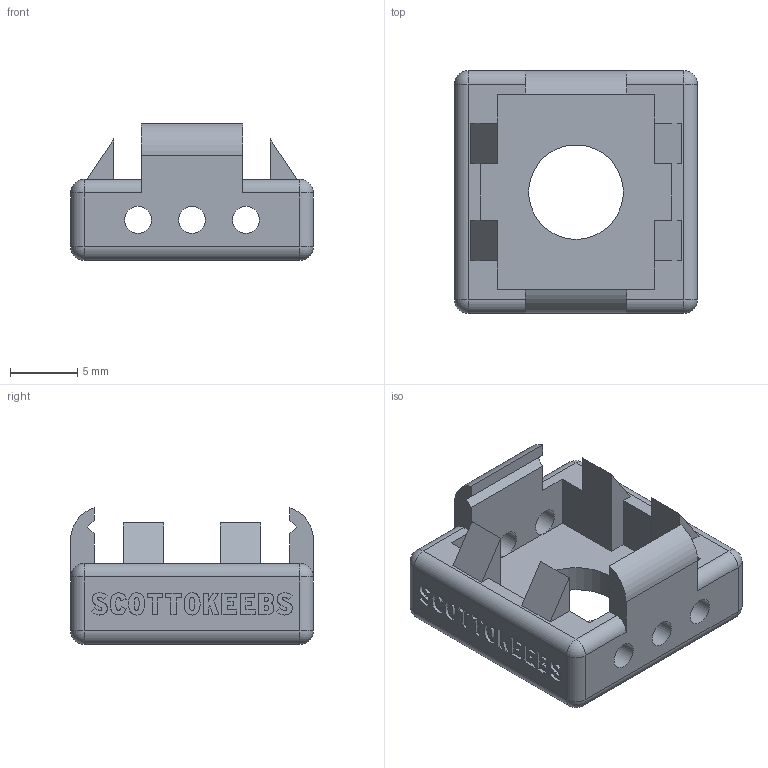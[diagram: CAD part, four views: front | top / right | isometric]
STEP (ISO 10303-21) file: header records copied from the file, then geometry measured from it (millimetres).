
FILE_DESCRIPTION(('HOOPS Exchange Step'),'2;1');
FILE_NAME('/var/folders/hd/s3_8dfks4419lbhxn872679c0000gn/T/com.shapr3d.shapr/export/temp_export','2023-08-22T14:58:55-04:00',('jscotto'),('Shapr3D Limited'),'HOOPS Exchange 2023.2','Shapr3D','Authorized');
FILE_SCHEMA( ('AUTOMOTIVE_DESIGN { 1 0 10303 214 1 1 1 1 }') );
Length unit declared in the file: millimetre
Products named in the file (1): Choc (Rounded)
Bounding box: 18 x 18 x 10.14 mm (x, y, z)
Volume: 1205.2 mm3; surface area: 1494.7 mm2
Topology: 1 solids, 1 shells, 277 faces, 738 edges, 479 vertices
Faces by surface type: plane 202, bspline 44, cylinder 23, sphere 8
Full cylindrical faces by diameter (mm): 2 x6, 7 x1
Entity records: 10632 total; most frequent: CARTESIAN_POINT 3979, ORIENTED_EDGE 1460, DIRECTION 1166, EDGE_CURVE 730, VECTOR 586, LINE 586, VERTEX_POINT 479, EDGE_LOOP 315
